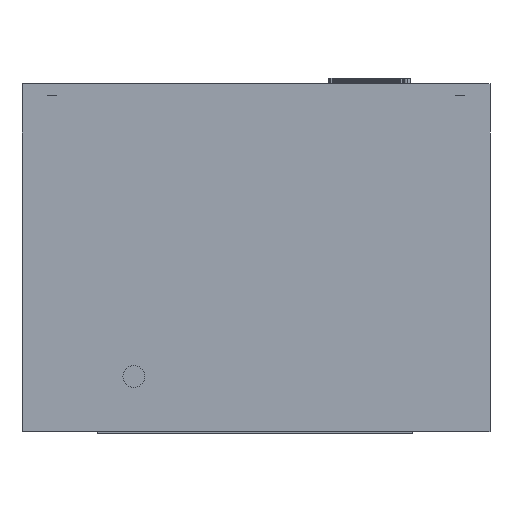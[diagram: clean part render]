
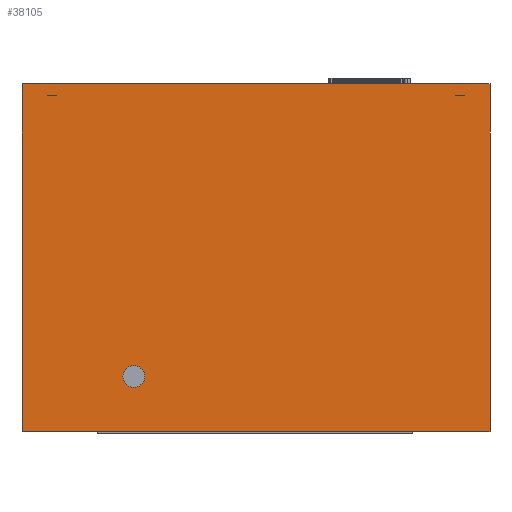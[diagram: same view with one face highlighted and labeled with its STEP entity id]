
A CAD part, front view. The second image highlights one B-rep face of the part: STEP entity #38105.
In plain terms, the highlighted planar face has unit normal (0, -1, 0).
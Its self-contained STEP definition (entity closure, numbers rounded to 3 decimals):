
#34332 = VERTEX_POINT ( 'NONE', #46113 ) ;
#34342 = EDGE_CURVE ( 'NONE', #34332, #34343, #46105, .T. ) ;
#34343 = VERTEX_POINT ( 'NONE', #46213 ) ;
#37656 = VERTEX_POINT ( 'NONE', #51075 ) ;
#37754 = EDGE_CURVE ( 'NONE', #37656, #37756, #51168, .T. ) ;
#37756 = VERTEX_POINT ( 'NONE', #51225 ) ;
#37981 = EDGE_CURVE ( 'NONE', #37982, #37983, #51361, .T. ) ;
#37982 = VERTEX_POINT ( 'NONE', #51418 ) ;
#37983 = VERTEX_POINT ( 'NONE', #51417 ) ;
#38098 = EDGE_CURVE ( 'NONE', #37983, #37756, #51509, .T. ) ;
#38105 = ADVANCED_FACE ( 'NONE', ( #51505, #51504 ), #51503, .T. ) ;
#38107 = EDGE_LOOP ( 'NONE', ( #38109, #38113 ) ) ;
#38109 = ORIENTED_EDGE ( 'NONE', *, *, #38112, .F. ) ;
#38112 = EDGE_CURVE ( 'NONE', #34343, #34332, #51497, .T. ) ;
#38113 = ORIENTED_EDGE ( 'NONE', *, *, #34342, .F. ) ;
#38114 = EDGE_LOOP ( 'NONE', ( #38115, #38117, #38217, #38218 ) ) ;
#38115 = ORIENTED_EDGE ( 'NONE', *, *, #37754, .F. ) ;
#38117 = ORIENTED_EDGE ( 'NONE', *, *, #38149, .F. ) ;
#38149 = EDGE_CURVE ( 'NONE', #37982, #37656, #51530, .T. ) ;
#38217 = ORIENTED_EDGE ( 'NONE', *, *, #37981, .T. ) ;
#38218 = ORIENTED_EDGE ( 'NONE', *, *, #38098, .T. ) ;
#46103 = AXIS2_PLACEMENT_3D ( 'NONE', #46220, #46218, #46216 ) ;
#46105 = CIRCLE ( 'NONE', #46103, 9.525 ) ;
#46113 = CARTESIAN_POINT ( 'NONE',  ( -105.86, 0., -244.025 ) ) ;
#46213 = CARTESIAN_POINT ( 'NONE',  ( -105.86, 0., -263.075 ) ) ;
#46216 = DIRECTION ( 'NONE',  ( 0., 0., -1. ) ) ;
#46218 = DIRECTION ( 'NONE',  ( 0., -1., 0. ) ) ;
#46220 = CARTESIAN_POINT ( 'NONE',  ( -105.86, 0., -253.55 ) ) ;
#51075 = CARTESIAN_POINT ( 'NONE',  ( -202.78, 0., 0. ) ) ;
#51168 = LINE ( 'NONE', #51228, #51227 ) ;
#51225 = CARTESIAN_POINT ( 'NONE',  ( 202.78, 0., 0. ) ) ;
#51226 = DIRECTION ( 'NONE',  ( 1., 0., 0. ) ) ;
#51227 = VECTOR ( 'NONE', #51226, 39.37 ) ;
#51228 = CARTESIAN_POINT ( 'NONE',  ( 0., 0., 0. ) ) ;
#51360 = CARTESIAN_POINT ( 'NONE',  ( -202.78, 0., -301.26 ) ) ;
#51361 = LINE ( 'NONE', #51360, #51420 ) ;
#51417 = CARTESIAN_POINT ( 'NONE',  ( 202.78, 0., -301.26 ) ) ;
#51418 = CARTESIAN_POINT ( 'NONE',  ( -202.78, 0., -301.26 ) ) ;
#51419 = DIRECTION ( 'NONE',  ( 1., 0., 0. ) ) ;
#51420 = VECTOR ( 'NONE', #51419, 39.37 ) ;
#51494 = DIRECTION ( 'NONE',  ( 0., 0., -1. ) ) ;
#51495 = DIRECTION ( 'NONE',  ( 0., -1., 0. ) ) ;
#51496 = AXIS2_PLACEMENT_3D ( 'NONE', #51501, #51495, #51494 ) ;
#51497 = CIRCLE ( 'NONE', #51496, 9.525 ) ;
#51498 = DIRECTION ( 'NONE',  ( 0., 0., -1. ) ) ;
#51499 = DIRECTION ( 'NONE',  ( 0., -1., 0. ) ) ;
#51500 = AXIS2_PLACEMENT_3D ( 'NONE', #51502, #51499, #51498 ) ;
#51501 = CARTESIAN_POINT ( 'NONE',  ( -105.86, 0., -253.55 ) ) ;
#51502 = CARTESIAN_POINT ( 'NONE',  ( 0., 0., -301.26 ) ) ;
#51503 = PLANE ( 'NONE',  #51500 ) ;
#51504 = FACE_OUTER_BOUND ( 'NONE', #38114, .T. ) ;
#51505 = FACE_BOUND ( 'NONE', #38107, .T. ) ;
#51506 = DIRECTION ( 'NONE',  ( 0., 0., 1. ) ) ;
#51507 = VECTOR ( 'NONE', #51506, 39.37 ) ;
#51508 = CARTESIAN_POINT ( 'NONE',  ( 202.78, 0., -301.26 ) ) ;
#51509 = LINE ( 'NONE', #51508, #51507 ) ;
#51527 = DIRECTION ( 'NONE',  ( 0., 0., 1. ) ) ;
#51528 = VECTOR ( 'NONE', #51527, 39.37 ) ;
#51529 = CARTESIAN_POINT ( 'NONE',  ( -202.78, 0., -301.26 ) ) ;
#51530 = LINE ( 'NONE', #51529, #51528 ) ;
